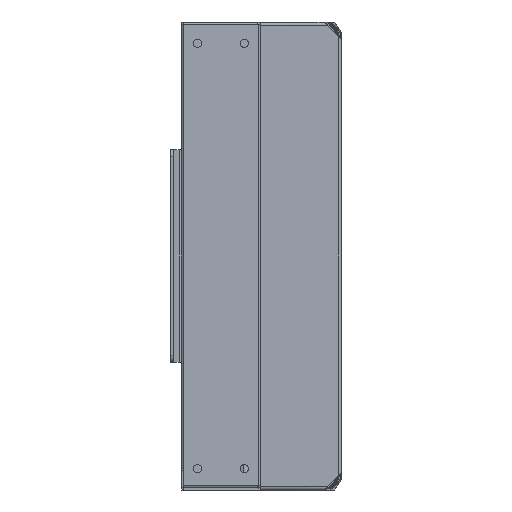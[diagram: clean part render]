
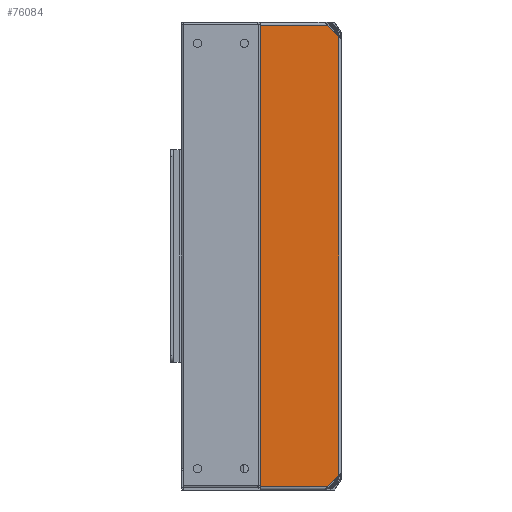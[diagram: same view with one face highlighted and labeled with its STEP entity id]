
A CAD part, left-side view. The second image highlights one B-rep face of the part: STEP entity #76084.
In plain terms, the highlighted planar face has unit normal (-1, 0, 0).
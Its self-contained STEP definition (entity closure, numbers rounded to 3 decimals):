
#5466=DIRECTION('',(0.,0.,-1.));
#5467=VECTOR('',#5466,217.);
#5468=CARTESIAN_POINT('',(-113.,38.,108.5));
#5469=LINE('',#5468,#5467);
#5542=DIRECTION('',(0.,-1.,0.));
#5543=VECTOR('',#5542,31.5);
#5544=CARTESIAN_POINT('',(-113.,38.,-108.5));
#5545=LINE('',#5544,#5543);
#5566=DIRECTION('',(0.,0.707,-0.707));
#5567=VECTOR('',#5566,7.778);
#5568=CARTESIAN_POINT('',(-113.,1.,-103.));
#5569=LINE('',#5568,#5567);
#5573=DIRECTION('',(0.,-0.707,-0.707));
#5574=VECTOR('',#5573,7.778);
#5575=CARTESIAN_POINT('',(-113.,6.5,108.5));
#5576=LINE('',#5575,#5574);
#5636=DIRECTION('',(0.,0.,1.));
#5637=VECTOR('',#5636,206.);
#5638=CARTESIAN_POINT('',(-113.,1.,-103.));
#5639=LINE('',#5638,#5637);
#5677=DIRECTION('',(0.,1.,0.));
#5678=VECTOR('',#5677,31.5);
#5679=CARTESIAN_POINT('',(-113.,6.5,108.5));
#5680=LINE('',#5679,#5678);
#64276=CARTESIAN_POINT('',(-113.,38.,108.5));
#64277=VERTEX_POINT('',#64276);
#64278=CARTESIAN_POINT('',(-113.,38.,-108.5));
#64279=VERTEX_POINT('',#64278);
#66395=CARTESIAN_POINT('',(-113.,6.5,-108.5));
#66396=VERTEX_POINT('',#66395);
#66397=CARTESIAN_POINT('',(-113.,1.,-103.));
#66398=VERTEX_POINT('',#66397);
#66399=CARTESIAN_POINT('',(-113.,6.5,108.5));
#66400=VERTEX_POINT('',#66399);
#66401=CARTESIAN_POINT('',(-113.,1.,103.));
#66402=VERTEX_POINT('',#66401);
#76067=CARTESIAN_POINT('',(-113.,0.,-110.));
#76068=DIRECTION('',(-1.,0.,0.));
#76069=DIRECTION('',(0.,0.,1.));
#76070=AXIS2_PLACEMENT_3D('',#76067,#76068,#76069);
#76071=PLANE('',#76070);
#76073=ORIENTED_EDGE('',*,*,#76072,.T.);
#76074=ORIENTED_EDGE('',*,*,#76058,.F.);
#76075=ORIENTED_EDGE('',*,*,#76002,.F.);
#76077=ORIENTED_EDGE('',*,*,#76076,.F.);
#76079=ORIENTED_EDGE('',*,*,#76078,.T.);
#76081=ORIENTED_EDGE('',*,*,#76080,.F.);
#76082=EDGE_LOOP('',(#76073,#76074,#76075,#76077,#76079,#76081));
#76083=FACE_OUTER_BOUND('',#76082,.F.);
#76002=EDGE_CURVE('',#64277,#64279,#5469,.T.);
#76058=EDGE_CURVE('',#64279,#66396,#5545,.T.);
#76072=EDGE_CURVE('',#66398,#66396,#5569,.T.);
#76076=EDGE_CURVE('',#66400,#64277,#5680,.T.);
#76078=EDGE_CURVE('',#66400,#66402,#5576,.T.);
#76080=EDGE_CURVE('',#66398,#66402,#5639,.T.);
#76084=ADVANCED_FACE('',(#76083),#76071,.T.);
